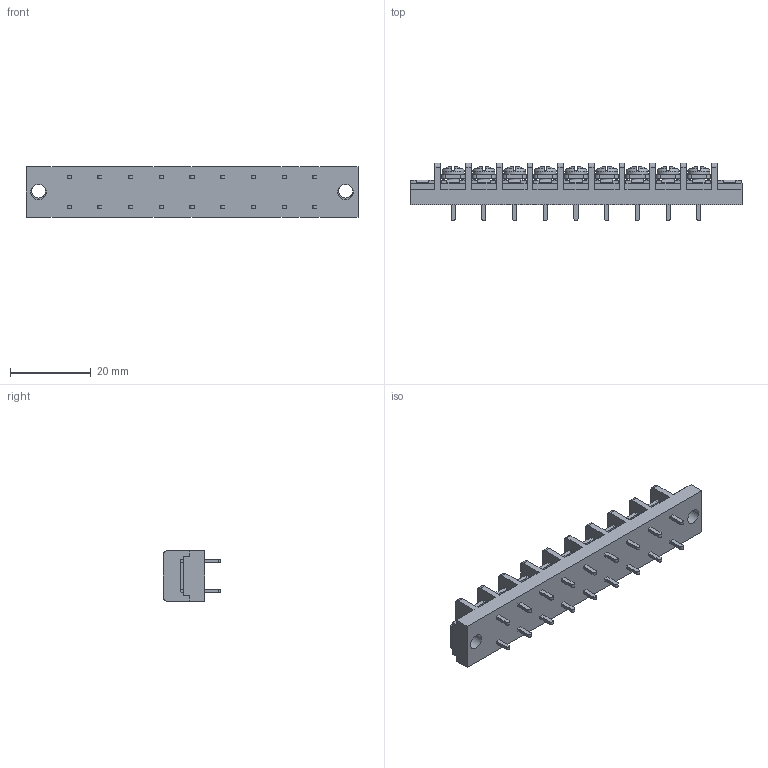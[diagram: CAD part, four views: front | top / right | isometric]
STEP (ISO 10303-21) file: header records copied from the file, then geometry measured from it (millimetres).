
FILE_DESCRIPTION(/* description */ ('Alibre Inc.'),/* implementation_level */ '2;1');
FILE_NAME(/* name */ 'export0',/* time_stamp */ '2015-10-26T18:30:41+09:00',/* author */ (''),/* organization */ (''),/* preprocessor_version */ 'ST-DEVELOPER v14',/* originating_system */ 'Alibre',/* authorisation */ '');
FILE_SCHEMA (('CONFIG_CONTROL_DESIGN'));
Length unit declared in the file: centimetre
Products named in the file (1): ID_1
Bounding box: 82.4 x 14.3 x 12.5 mm (x, y, z)
Volume: 7096.8 mm3; surface area: 6499.5 mm2
Topology: 1 solids, 17 shells, 1345 faces, 3638 edges, 2394 vertices
Faces by surface type: plane 1051, cylinder 118, bspline 104, cone 36, torus 18, sphere 18
Full cylindrical faces by diameter (mm): 3 x9, 3.5 x2, 3.8 x2, 5.5 x9
Entity records: 39869 total; most frequent: CARTESIAN_POINT 8548, ORIENTED_EDGE 7152, DIRECTION 4952, EDGE_CURVE 3576, VECTOR 2588, LINE 2588, VERTEX_POINT 2372, AXIS2_PLACEMENT_3D 1656
